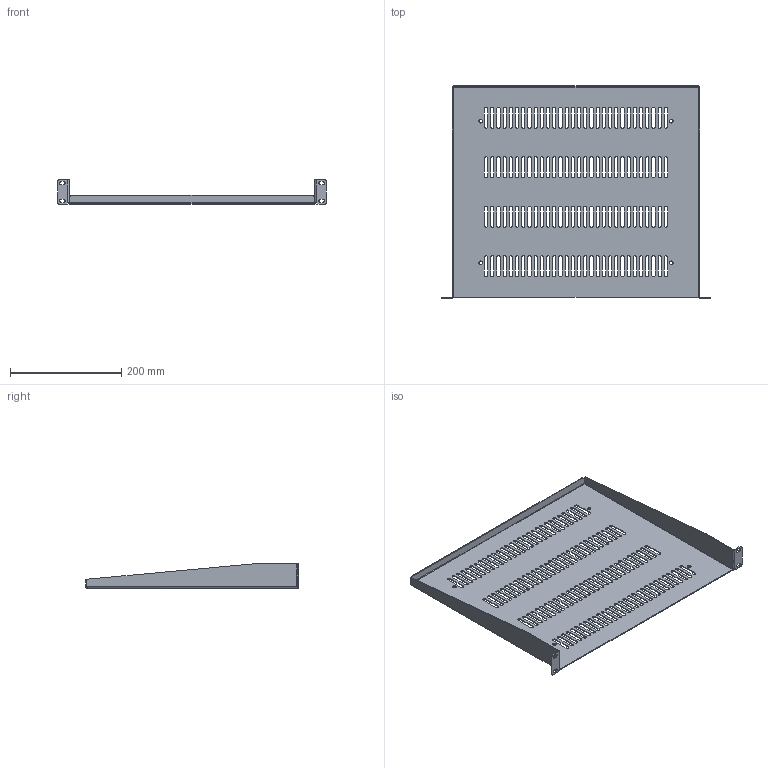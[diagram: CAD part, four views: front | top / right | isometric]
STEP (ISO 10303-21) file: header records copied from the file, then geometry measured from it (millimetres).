
FILE_DESCRIPTION( ( 'Unknown' ), '1' );
FILE_NAME( 'Q:/ACCESSORIES/SHELVES/RK _ RMA/WEB DRAWINGS/STEP/RASV190115.stp', 'Unknown', ( 'Unknown' ), ( 'Unknown' ), 'PSStep 10.1', 'Unknown', ' ' );
FILE_SCHEMA( ( 'AUTOMOTIVE_DESIGN { 1 0 10303 214 1 1 1 1 }' ) );
Length unit declared in the file: millimetre
Products named in the file (1): 1
Bounding box: 482.75 x 381 x 43.64 mm (x, y, z)
Volume: 314708.2 mm3; surface area: 366153.7 mm2
Topology: 1 solids, 1 shells, 564 faces, 1670 edges, 1108 vertices
Faces by surface type: plane 288, cylinder 272, bspline 4
Full cylindrical faces by diameter (mm): 6.35 x4
Entity records: 19685 total; most frequent: CARTESIAN_POINT 3627, ORIENTED_EDGE 3324, DIRECTION 3308, EDGE_CURVE 1662, AXIS2_PLACEMENT_3D 1105, VERTEX_POINT 1104, LINE 1098, VECTOR 1098
